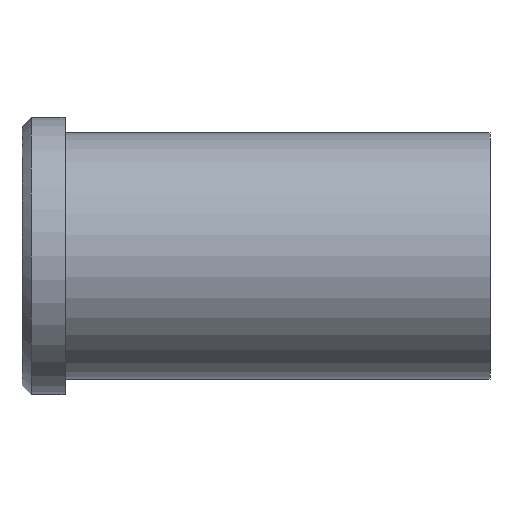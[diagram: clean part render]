
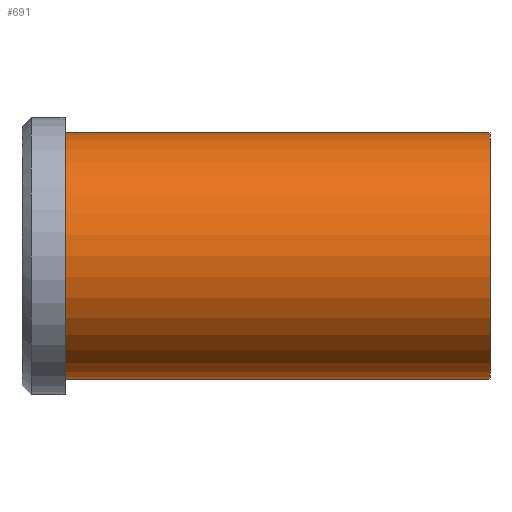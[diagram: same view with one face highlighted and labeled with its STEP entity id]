
A CAD part, front view. The second image highlights one B-rep face of the part: STEP entity #691.
In plain terms, the highlighted cylindrical face has radius 20 mm (diameter 40 mm), a partial arc.
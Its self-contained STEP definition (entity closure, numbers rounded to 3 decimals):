
#501=CARTESIAN_POINT('Vertex',(0.,0.,-20.)) ;
#506=CARTESIAN_POINT('Axis2P3D Location',(0.,0.,0.)) ;
#510=CARTESIAN_POINT('Vertex',(0.,-20.,0.)) ;
#513=CARTESIAN_POINT('Axis2P3D Location',(0.,0.,0.)) ;
#517=CARTESIAN_POINT('Vertex',(0.,0.,20.)) ;
#631=CARTESIAN_POINT('Line Origine',(69.,0.,20.)) ;
#635=CARTESIAN_POINT('Vertex',(69.,0.,20.)) ;
#649=CARTESIAN_POINT('Vertex',(69.,0.,-20.)) ;
#652=CARTESIAN_POINT('Line Origine',(69.,0.,-20.)) ;
#666=CARTESIAN_POINT('Axis2P3D Location',(69.,0.,0.)) ;
#671=CARTESIAN_POINT('Axis2P3D Location',(69.,0.,0.)) ;
#675=CARTESIAN_POINT('Vertex',(69.,-20.,0.)) ;
#678=CARTESIAN_POINT('Axis2P3D Location',(69.,0.,0.)) ;
#507=DIRECTION('Axis2P3D Direction',(1.,0.,-0.)) ;
#514=DIRECTION('Axis2P3D Direction',(1.,0.,-0.)) ;
#632=DIRECTION('Vector Direction',(-1.,0.,0.)) ;
#653=DIRECTION('Vector Direction',(-1.,0.,0.)) ;
#667=DIRECTION('Axis2P3D Direction',(-1.,-0.,-0.)) ;
#668=DIRECTION('Axis2P3D XDirection',(0.,0.,-1.)) ;
#672=DIRECTION('Axis2P3D Direction',(-1.,-0.,-0.)) ;
#679=DIRECTION('Axis2P3D Direction',(-1.,-0.,-0.)) ;
#508=AXIS2_PLACEMENT_3D('Circle Axis2P3D',#506,#507,$) ;
#515=AXIS2_PLACEMENT_3D('Circle Axis2P3D',#513,#514,$) ;
#669=AXIS2_PLACEMENT_3D('Cylinder Axis2P3D',#666,#667,#668) ;
#673=AXIS2_PLACEMENT_3D('Circle Axis2P3D',#671,#672,$) ;
#680=AXIS2_PLACEMENT_3D('Circle Axis2P3D',#678,#679,$) ;
#684=ORIENTED_EDGE('',*,*,#656,.T.) ;
#685=ORIENTED_EDGE('',*,*,#677,.F.) ;
#686=ORIENTED_EDGE('',*,*,#682,.F.) ;
#687=ORIENTED_EDGE('',*,*,#637,.T.) ;
#688=ORIENTED_EDGE('',*,*,#519,.T.) ;
#689=ORIENTED_EDGE('',*,*,#512,.T.) ;
#633=VECTOR('Line Direction',#632,1.) ;
#654=VECTOR('Line Direction',#653,1.) ;
#691=ADVANCED_FACE('353-32X76',(#690),#670,.T.) ;
#509=CIRCLE('generated circle',#508,20.) ;
#516=CIRCLE('generated circle',#515,20.) ;
#674=CIRCLE('generated circle',#673,20.) ;
#681=CIRCLE('generated circle',#680,20.) ;
#670=CYLINDRICAL_SURFACE('generated cylinder',#669,20.) ;
#512=EDGE_CURVE('',#511,#502,#509,.T.) ;
#519=EDGE_CURVE('',#518,#511,#516,.T.) ;
#637=EDGE_CURVE('',#636,#518,#634,.T.) ;
#656=EDGE_CURVE('',#502,#650,#655,.F.) ;
#677=EDGE_CURVE('',#676,#650,#674,.F.) ;
#682=EDGE_CURVE('',#636,#676,#681,.F.) ;
#683=EDGE_LOOP('',(#684,#685,#686,#687,#688,#689)) ;
#690=FACE_OUTER_BOUND('',#683,.T.) ;
#634=LINE('Line',#631,#633) ;
#655=LINE('Line',#652,#654) ;
#502=VERTEX_POINT('',#501) ;
#511=VERTEX_POINT('',#510) ;
#518=VERTEX_POINT('',#517) ;
#636=VERTEX_POINT('',#635) ;
#650=VERTEX_POINT('',#649) ;
#676=VERTEX_POINT('',#675) ;
